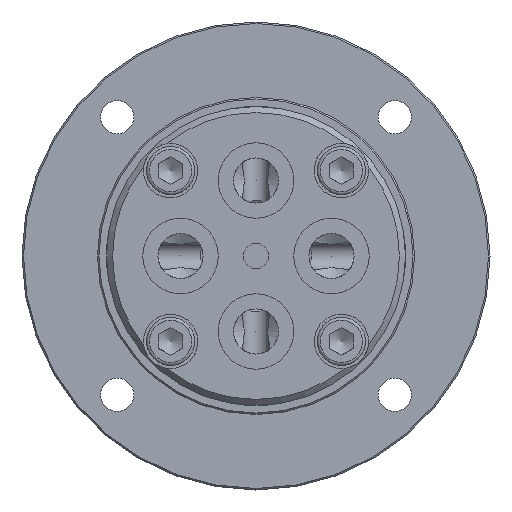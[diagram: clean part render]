
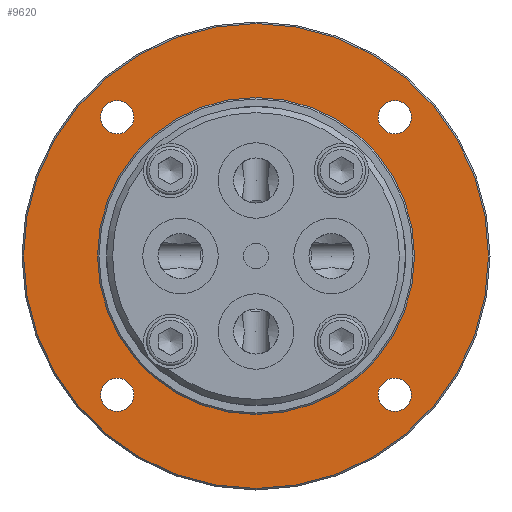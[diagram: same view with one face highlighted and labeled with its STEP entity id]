
A CAD part, left-side view. The second image highlights one B-rep face of the part: STEP entity #9620.
In plain terms, the highlighted planar face has unit normal (-1, 0, 0).
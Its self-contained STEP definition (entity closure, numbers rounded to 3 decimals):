
#490=FACE_BOUND('',#1733,.T.);
#491=FACE_BOUND('',#1734,.T.);
#492=FACE_BOUND('',#1735,.T.);
#493=FACE_BOUND('',#1736,.T.);
#494=FACE_BOUND('',#1737,.T.);
#614=PLANE('',#11035);
#1096=FACE_OUTER_BOUND('',#1732,.T.);
#1732=EDGE_LOOP('',(#8224));
#1733=EDGE_LOOP('',(#8225,#8226));
#1734=EDGE_LOOP('',(#8227,#8228));
#1735=EDGE_LOOP('',(#8229,#8230));
#1736=EDGE_LOOP('',(#8231,#8232));
#1737=EDGE_LOOP('',(#8233,#8234));
#2842=CIRCLE('',#11034,77.);
#2843=CIRCLE('',#11036,52.5);
#2844=CIRCLE('',#11037,52.5);
#2845=CIRCLE('',#11038,5.5);
#2846=CIRCLE('',#11039,5.5);
#2847=CIRCLE('',#11040,5.5);
#2848=CIRCLE('',#11041,5.5);
#2849=CIRCLE('',#11042,5.5);
#2850=CIRCLE('',#11043,5.5);
#2851=CIRCLE('',#11044,5.5);
#2852=CIRCLE('',#11045,5.5);
#4410=VERTEX_POINT('',#19298);
#4411=VERTEX_POINT('',#19302);
#4412=VERTEX_POINT('',#19303);
#4413=VERTEX_POINT('',#19306);
#4414=VERTEX_POINT('',#19307);
#4415=VERTEX_POINT('',#19310);
#4416=VERTEX_POINT('',#19311);
#4417=VERTEX_POINT('',#19314);
#4418=VERTEX_POINT('',#19315);
#4419=VERTEX_POINT('',#19318);
#4420=VERTEX_POINT('',#19319);
#5750=EDGE_CURVE('',#4410,#4410,#2842,.T.);
#5751=EDGE_CURVE('',#4411,#4412,#2843,.T.);
#5752=EDGE_CURVE('',#4412,#4411,#2844,.T.);
#5753=EDGE_CURVE('',#4413,#4414,#2845,.T.);
#5754=EDGE_CURVE('',#4414,#4413,#2846,.T.);
#5755=EDGE_CURVE('',#4415,#4416,#2847,.T.);
#5756=EDGE_CURVE('',#4416,#4415,#2848,.T.);
#5757=EDGE_CURVE('',#4417,#4418,#2849,.T.);
#5758=EDGE_CURVE('',#4418,#4417,#2850,.T.);
#5759=EDGE_CURVE('',#4419,#4420,#2851,.T.);
#5760=EDGE_CURVE('',#4420,#4419,#2852,.T.);
#8224=ORIENTED_EDGE('',*,*,#5750,.F.);
#8225=ORIENTED_EDGE('',*,*,#5751,.T.);
#8226=ORIENTED_EDGE('',*,*,#5752,.T.);
#8227=ORIENTED_EDGE('',*,*,#5753,.T.);
#8228=ORIENTED_EDGE('',*,*,#5754,.T.);
#8229=ORIENTED_EDGE('',*,*,#5755,.T.);
#8230=ORIENTED_EDGE('',*,*,#5756,.T.);
#8231=ORIENTED_EDGE('',*,*,#5757,.T.);
#8232=ORIENTED_EDGE('',*,*,#5758,.T.);
#8233=ORIENTED_EDGE('',*,*,#5759,.T.);
#8234=ORIENTED_EDGE('',*,*,#5760,.T.);
#9620=ADVANCED_FACE('',(#1096,#490,#491,#492,#493,#494),#614,.T.);
#11034=AXIS2_PLACEMENT_3D('',#19300,#13620,#13621);
#11035=AXIS2_PLACEMENT_3D('',#19301,#13622,#13623);
#11036=AXIS2_PLACEMENT_3D('',#19304,#13624,#13625);
#11037=AXIS2_PLACEMENT_3D('',#19305,#13626,#13627);
#11038=AXIS2_PLACEMENT_3D('',#19308,#13628,#13629);
#11039=AXIS2_PLACEMENT_3D('',#19309,#13630,#13631);
#11040=AXIS2_PLACEMENT_3D('',#19312,#13632,#13633);
#11041=AXIS2_PLACEMENT_3D('',#19313,#13634,#13635);
#11042=AXIS2_PLACEMENT_3D('',#19316,#13636,#13637);
#11043=AXIS2_PLACEMENT_3D('',#19317,#13638,#13639);
#11044=AXIS2_PLACEMENT_3D('',#19320,#13640,#13641);
#11045=AXIS2_PLACEMENT_3D('',#19321,#13642,#13643);
#13620=DIRECTION('center_axis',(1.,0.,0.));
#13621=DIRECTION('ref_axis',(0.,-1.,0.));
#13622=DIRECTION('center_axis',(-1.,0.,0.));
#13623=DIRECTION('ref_axis',(0.,0.,1.));
#13624=DIRECTION('center_axis',(1.,0.,0.));
#13625=DIRECTION('ref_axis',(0.,0.,-1.));
#13626=DIRECTION('center_axis',(1.,0.,0.));
#13627=DIRECTION('ref_axis',(0.,0.,-1.));
#13628=DIRECTION('center_axis',(1.,0.,0.));
#13629=DIRECTION('ref_axis',(0.,0.,1.));
#13630=DIRECTION('center_axis',(1.,0.,0.));
#13631=DIRECTION('ref_axis',(0.,0.,1.));
#13632=DIRECTION('center_axis',(1.,0.,0.));
#13633=DIRECTION('ref_axis',(0.,-1.,0.));
#13634=DIRECTION('center_axis',(1.,0.,0.));
#13635=DIRECTION('ref_axis',(0.,-1.,0.));
#13636=DIRECTION('center_axis',(1.,0.,0.));
#13637=DIRECTION('ref_axis',(0.,0.,-1.));
#13638=DIRECTION('center_axis',(1.,0.,0.));
#13639=DIRECTION('ref_axis',(0.,0.,-1.));
#13640=DIRECTION('center_axis',(1.,0.,0.));
#13641=DIRECTION('ref_axis',(0.,1.,0.));
#13642=DIRECTION('center_axis',(1.,0.,0.));
#13643=DIRECTION('ref_axis',(0.,1.,0.));
#19298=CARTESIAN_POINT('',(38.,77.,0.));
#19300=CARTESIAN_POINT('Origin',(38.,0.,
0.));
#19301=CARTESIAN_POINT('Origin',(38.,77.5,0.));
#19302=CARTESIAN_POINT('',(38.,52.5,0.));
#19303=CARTESIAN_POINT('',(38.,-52.5,0.));
#19304=CARTESIAN_POINT('Origin',(38.,0.,
0.));
#19305=CARTESIAN_POINT('Origin',(38.,0.,
0.));
#19306=CARTESIAN_POINT('',(38.,-45.962,-40.462));
#19307=CARTESIAN_POINT('',(38.,-45.962,-51.462));
#19308=CARTESIAN_POINT('Origin',(38.,-45.962,-45.962));
#19309=CARTESIAN_POINT('Origin',(38.,-45.962,-45.962));
#19310=CARTESIAN_POINT('',(38.,40.462,-45.962));
#19311=CARTESIAN_POINT('',(38.,51.462,-45.962));
#19312=CARTESIAN_POINT('Origin',(38.,45.962,-45.962));
#19313=CARTESIAN_POINT('Origin',(38.,45.962,-45.962));
#19314=CARTESIAN_POINT('',(38.,45.962,40.462));
#19315=CARTESIAN_POINT('',(38.,45.962,51.462));
#19316=CARTESIAN_POINT('Origin',(38.,45.962,45.962));
#19317=CARTESIAN_POINT('Origin',(38.,45.962,45.962));
#19318=CARTESIAN_POINT('',(38.,-40.462,45.962));
#19319=CARTESIAN_POINT('',(38.,-51.462,45.962));
#19320=CARTESIAN_POINT('Origin',(38.,-45.962,45.962));
#19321=CARTESIAN_POINT('Origin',(38.,-45.962,45.962));
